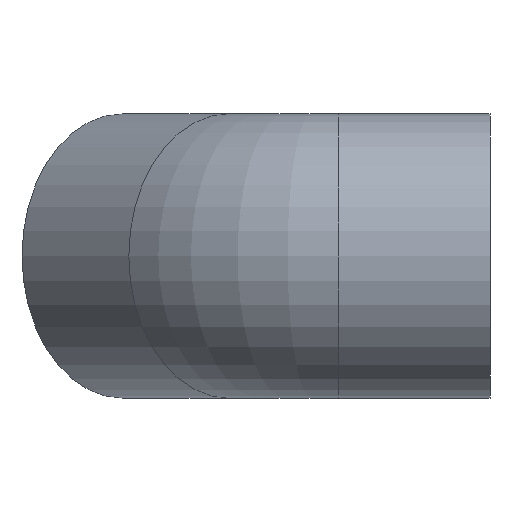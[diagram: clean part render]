
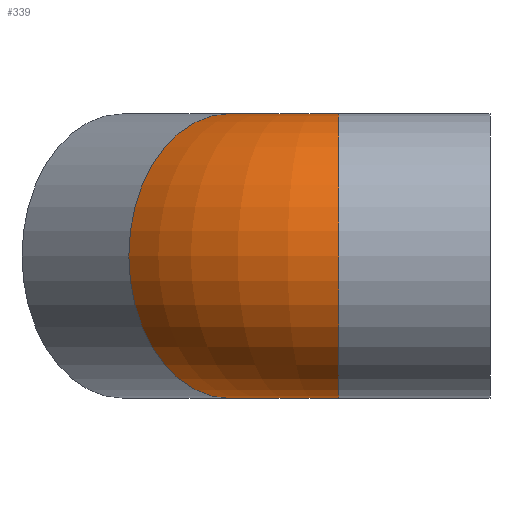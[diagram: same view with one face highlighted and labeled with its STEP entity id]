
A CAD part, left-side view. The second image highlights one B-rep face of the part: STEP entity #339.
In plain terms, the highlighted toroidal (fillet/blend) face has major radius 18 mm and minor radius 16.5 mm.
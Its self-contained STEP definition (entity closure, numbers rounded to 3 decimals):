
#16=TOROIDAL_SURFACE('',#369,18.,16.5);
#23=FACE_BOUND('',#102,.T.);
#71=FACE_OUTER_BOUND('',#101,.T.);
#101=EDGE_LOOP('',(#293));
#102=EDGE_LOOP('',(#294));
#122=CIRCLE('',#368,16.5);
#123=CIRCLE('',#370,16.5);
#174=VERTEX_POINT('',#7820);
#175=VERTEX_POINT('',#7823);
#218=EDGE_CURVE('',#174,#174,#122,.T.);
#219=EDGE_CURVE('',#175,#175,#123,.T.);
#293=ORIENTED_EDGE('',*,*,#218,.F.);
#294=ORIENTED_EDGE('',*,*,#219,.T.);
#339=ADVANCED_FACE('',(#71,#23),#16,.T.);
#368=AXIS2_PLACEMENT_3D('',#7821,#429,#430);
#369=AXIS2_PLACEMENT_3D('',#7822,#431,#432);
#370=AXIS2_PLACEMENT_3D('',#7824,#433,#434);
#429=DIRECTION('center_axis',(0.707,0.707,0.));
#430=DIRECTION('ref_axis',(0.707,-0.707,0.));
#431=DIRECTION('center_axis',(0.,0.,-1.));
#432=DIRECTION('ref_axis',(-1.,0.,0.));
#433=DIRECTION('center_axis',(0.,1.,0.));
#434=DIRECTION('ref_axis',(1.,0.,0.));
#7820=CARTESIAN_POINT('',(-6.395,41.939,0.));
#7821=CARTESIAN_POINT('Origin',(5.272,30.272,0.));
#7822=CARTESIAN_POINT('Origin',(18.,17.544,0.));
#7823=CARTESIAN_POINT('',(-16.5,17.544,0.));
#7824=CARTESIAN_POINT('Origin',(0.,17.544,0.));
